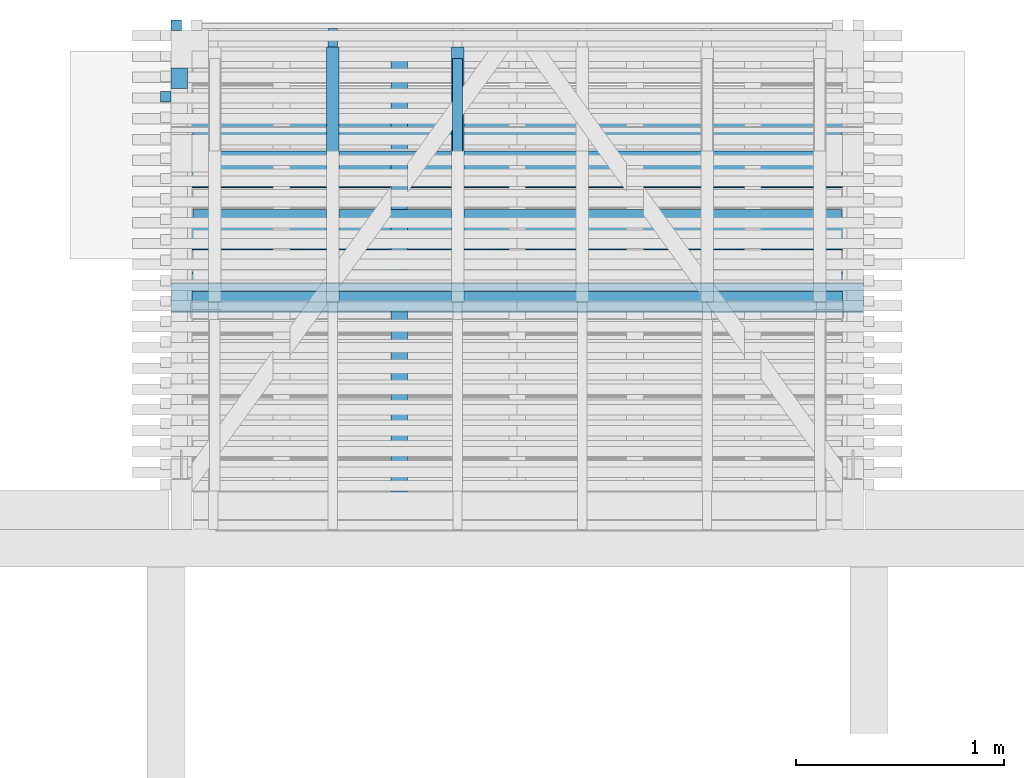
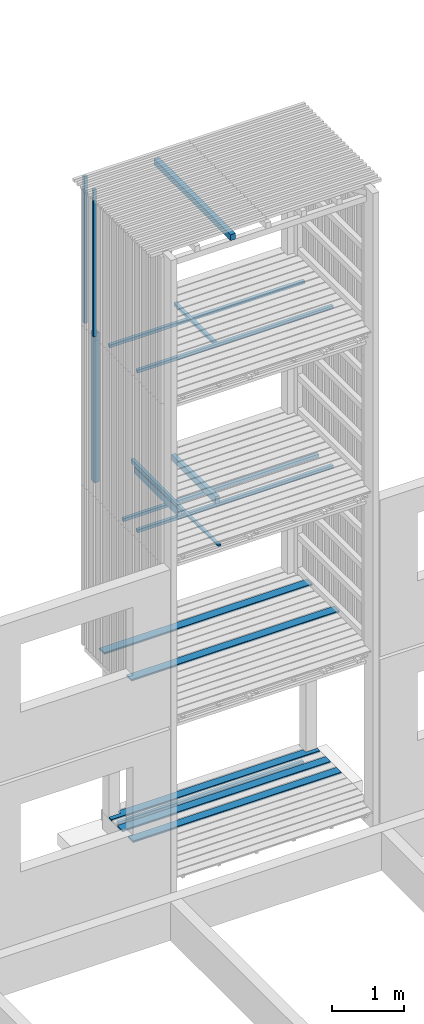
# One storey, part 44 of 182: 18 beams.
"""IFC2X3 building model written with IfcOpenShell, lengths in metres."""

from ifc_helpers import new_model, si_unit, frame, origin, place, context, project, spatial, faceted_brep, element, save


model = new_model("IFC2X3")

# Units and contexts
model_context = context("Model", 3, precision=1e-06, world=origin())
ifc_project = project(units=[si_unit("LENGTHUNIT", "METRE"), si_unit("PLANEANGLEUNIT", "RADIAN")], contexts=[model_context])

# Site, building, storey
site = spatial("IfcSite", under=ifc_project, CompositionType="ELEMENT")
building = spatial("IfcBuilding", under=site, CompositionType="ELEMENT")
storey = spatial("IfcBuildingStorey", under=building, Name="vs", CompositionType="ELEMENT", Elevation=-0.85)

# Beams
placement = place(None, origin())
beam_1_placement = place(placement, frame((14.42253064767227, 10.650077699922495, 10.404999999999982), z_axis=(0.0, 0.0, 1.0), x_axis=(0.0, 1.0, 0.0)))
element("IfcBeam", 1, at=beam_1_placement, inside=storey, Name="Support bardage", context=model_context, shape_type="Brep", body=[
    faceted_brep([(2.120000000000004, -0.040000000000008, 0.050000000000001), (2.120000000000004, 0.03999999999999, 0.050000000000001), (3e-15, 0.03999999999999, 0.050000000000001), (3e-15, -0.040000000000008, 0.050000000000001), (3e-15, 0.03999999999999, 0.050000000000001), (2.120000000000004, 0.03999999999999, 0.050000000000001), (2.120000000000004, 0.03999999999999, -0.050000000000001), (3e-15, 0.03999999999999, -0.050000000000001), (2.120000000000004, 0.03999999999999, 0.050000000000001), (2.120000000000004, -0.040000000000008, 0.050000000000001), (2.120000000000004, -0.040000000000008, -0.050000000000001), (2.120000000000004, 0.03999999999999, -0.050000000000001), (2.120000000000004, -0.040000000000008, -0.050000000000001), (2.120000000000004, -0.040000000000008, 0.050000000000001), (3e-15, -0.040000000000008, 0.050000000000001), (3e-15, -0.040000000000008, -0.050000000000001), (3e-15, 0.03999999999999, -0.050000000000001), (2.120000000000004, 0.03999999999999, -0.050000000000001), (2.120000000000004, -0.040000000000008, -0.050000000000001), (3e-15, -0.040000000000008, -0.050000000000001), (3e-15, 0.03999999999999, 0.050000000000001), (3e-15, 0.03999999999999, -0.050000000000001), (3e-15, -0.040000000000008, -0.050000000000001), (3e-15, -0.040000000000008, 0.050000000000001)], [[[0, 1, 2, 3]], [[4, 5, 6, 7]], [[8, 9, 10, 11]], [[12, 13, 14, 15]], [[16, 17, 18, 19]], [[20, 21, 22, 23]]]),
])
beam_2_placement = place(placement, frame((14.102197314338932, 10.4700776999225, 5.384400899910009), z_axis=(0.0, 0.0, 1.0), x_axis=(0.0, 1.0, 0.0)))
element("IfcBeam", 2, at=beam_2_placement, inside=storey, Name="Calage", context=model_context, shape_type="Brep", body=[
    faceted_brep([(2.41000000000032, -0.022500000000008, -0.035599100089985), (0.0, -0.022500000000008, 0.012600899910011), (0.0, 0.022499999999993, 0.012600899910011), (2.41000000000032, 0.022499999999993, -0.035599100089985), (0.0, 0.022499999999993, 0.035599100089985), (0.0, 0.022499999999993, 0.012600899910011), (0.0, -0.022500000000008, 0.012600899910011), (0.0, -0.022500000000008, 0.035599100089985), (2.41000000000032, 0.022499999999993, -0.035599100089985), (0.0, 0.022499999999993, 0.012600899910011), (0.0, 0.022499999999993, 0.035599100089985), (2.41000000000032, 0.022499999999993, 0.035599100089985), (2.41000000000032, -0.022500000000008, 0.035599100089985), (0.0, -0.022500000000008, 0.035599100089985), (0.0, -0.022500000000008, 0.012600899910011), (2.41000000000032, -0.022500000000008, -0.035599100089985), (2.41000000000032, 0.022499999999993, 0.035599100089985), (0.0, 0.022499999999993, 0.035599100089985), (0.0, -0.022500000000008, 0.035599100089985), (2.41000000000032, -0.022500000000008, 0.035599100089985), (2.41000000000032, 0.022499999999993, -0.035599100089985), (2.41000000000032, 0.022499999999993, 0.035599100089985), (2.41000000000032, -0.022500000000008, 0.035599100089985), (2.41000000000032, -0.022500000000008, -0.035599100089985)], [[[0, 1, 2, 3]], [[4, 5, 6, 7]], [[8, 9, 10, 11]], [[12, 13, 14, 15]], [[16, 17, 18, 19]], [[20, 21, 22, 23]]]),
])
beam_3_placement = place(placement, frame((14.70219731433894, 12.735077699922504, 7.91739999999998), z_axis=(0.0, 0.0, 1.0), x_axis=(0.0, -1.0, 0.0)))
element("IfcBeam", 3, at=beam_3_placement, inside=storey, Name="Calage", context=model_context, shape_type="Brep", body=[
    faceted_brep([(1.115000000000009, 0.024999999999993, 0.024999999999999), (1.115000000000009, -0.025000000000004, 0.024999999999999), (1.115000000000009, -0.025000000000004, -0.025), (1.115000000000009, 0.024999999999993, -0.025), (0.0, -0.025000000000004, -0.025), (0.0, -0.025000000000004, 0.024999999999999), (0.0, 0.024999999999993, 0.024999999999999), (0.0, 0.024999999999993, -0.025), (1.115000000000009, -0.025000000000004, 0.024999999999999), (1.115000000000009, 0.024999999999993, 0.024999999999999), (0.0, 0.024999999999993, 0.024999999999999), (0.0, -0.025000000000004, 0.024999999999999), (1.115000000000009, -0.025000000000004, -0.025), (1.115000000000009, -0.025000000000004, 0.024999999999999), (0.0, -0.025000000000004, 0.024999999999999), (0.0, -0.025000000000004, -0.025), (1.115000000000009, 0.024999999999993, -0.025), (1.115000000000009, -0.025000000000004, -0.025), (0.0, -0.025000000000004, -0.025), (0.0, 0.024999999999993, -0.025), (0.0, 0.024999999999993, 0.024999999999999), (1.115000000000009, 0.024999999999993, 0.024999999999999), (1.115000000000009, 0.024999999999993, -0.025), (0.0, 0.024999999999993, -0.025)], [[[0, 1, 2, 3]], [[4, 5, 6, 7]], [[8, 9, 10, 11]], [[12, 13, 14, 15]], [[16, 17, 18, 19]], [[20, 21, 22, 23]]]),
])
beam_4_placement = place(placement, frame((13.424197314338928, 11.590077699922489, 7.917399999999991), z_axis=(0.0, 0.0, 1.0), x_axis=(1.0, 0.0, 0.0)))
element("IfcBeam", 4, at=beam_4_placement, inside=storey, Name="Ligneul", context=model_context, shape_type="Brep", body=[
    faceted_brep([(4e-15, -0.024999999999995, 0.024999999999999), (4e-15, -0.024999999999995, -0.025000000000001), (3.129999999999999, -0.024999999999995, -0.025000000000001), (3.129999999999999, -0.024999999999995, 0.024999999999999), (4e-15, 0.025000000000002, 0.024999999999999), (4e-15, -0.024999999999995, 0.024999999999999), (3.129999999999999, -0.024999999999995, 0.024999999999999), (3.129999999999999, 0.025000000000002, 0.024999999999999), (4e-15, -0.024999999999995, 0.024999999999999), (4e-15, 0.025000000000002, 0.024999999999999), (4e-15, 0.025000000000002, -0.025000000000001), (4e-15, -0.024999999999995, -0.025000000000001), (4e-15, 0.025000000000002, -0.025000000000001), (4e-15, 0.025000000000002, 0.024999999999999), (3.129999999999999, 0.025000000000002, 0.024999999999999), (3.129999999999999, 0.025000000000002, -0.025000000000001), (3.129999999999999, -0.024999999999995, -0.025000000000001), (4e-15, -0.024999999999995, -0.025000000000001), (4e-15, 0.025000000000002, -0.025000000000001), (3.129999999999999, 0.025000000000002, -0.025000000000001), (3.129999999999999, -0.024999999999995, 0.024999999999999), (3.129999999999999, -0.024999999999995, -0.025000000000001), (3.129999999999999, 0.025000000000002, -0.025000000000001), (3.129999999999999, 0.025000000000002, 0.024999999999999)], [[[0, 1, 2, 3]], [[4, 5, 6, 7]], [[8, 9, 10, 11]], [[12, 13, 14, 15]], [[16, 17, 18, 19]], [[20, 21, 22, 23]]]),
])
beam_5_placement = place(placement, frame((13.504197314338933, 12.265077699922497, -0.164999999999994), z_axis=(0.0, 0.0, 1.0), x_axis=(1.0, 0.0, 0.0)))
element("IfcBeam", 5, at=beam_5_placement, inside=storey, Name="Ligneul", context=model_context, shape_type="Brep", body=[
    faceted_brep([(2e-15, -0.024999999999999, 0.025), (2e-15, -0.024999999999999, -0.025), (2.970000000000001, -0.024999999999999, -0.025), (2.970000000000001, -0.024999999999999, 0.025), (2e-15, 0.024999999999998, 0.025), (2e-15, -0.024999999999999, 0.025), (2.970000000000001, -0.024999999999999, 0.025), (2.970000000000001, 0.025000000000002, 0.025), (2e-15, -0.024999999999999, 0.025), (2e-15, 0.024999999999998, 0.025), (2e-15, 0.024999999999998, -0.025), (2e-15, -0.024999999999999, -0.025), (2e-15, 0.024999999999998, -0.025), (2e-15, 0.024999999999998, 0.025), (2.970000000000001, 0.025000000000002, 0.025), (2.970000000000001, 0.025000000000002, -0.025), (2.970000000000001, -0.024999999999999, -0.025), (2e-15, -0.024999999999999, -0.025), (2e-15, 0.024999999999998, -0.025), (2.970000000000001, 0.025000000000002, -0.025), (2.970000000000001, -0.024999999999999, 0.025), (2.970000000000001, -0.024999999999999, -0.025), (2.970000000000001, 0.025000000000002, -0.025), (2.970000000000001, 0.025000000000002, 0.025)], [[[0, 1, 2, 3]], [[4, 5, 6, 7]], [[8, 9, 10, 11]], [[12, 13, 14, 15]], [[16, 17, 18, 19]], [[20, 21, 22, 23]]]),
])
beam_6_placement = place(placement, frame((14.102197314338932, 11.565077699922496, 5.304249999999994), z_axis=(0.0, 0.0, 1.0), x_axis=(0.0, 1.0, 0.0)))
element("IfcBeam", 6, at=beam_6_placement, inside=storey, Name="Solive", context=model_context, shape_type="Brep", body=[
    faceted_brep([(0.0, -0.030000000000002, -0.061849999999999), (1.225000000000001, -0.030000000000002, -0.061849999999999), (1.225000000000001, -0.030000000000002, 0.03735), (0.0, -0.030000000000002, 0.06185), (0.0, 0.030000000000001, 0.061850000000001), (0.0, 0.030000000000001, -0.061849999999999), (0.0, -0.030000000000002, -0.061849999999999), (0.0, -0.030000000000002, 0.06185), (0.0, -0.030000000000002, -0.061849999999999), (0.0, 0.030000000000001, -0.061849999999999), (1.225000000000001, 0.030000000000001, -0.061849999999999), (1.225000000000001, -0.030000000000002, -0.061849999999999), (1.225000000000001, 0.030000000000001, -0.061849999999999), (0.0, 0.030000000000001, -0.061849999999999), (0.0, 0.030000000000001, 0.061850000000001), (1.225000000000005, 0.030000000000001, 0.03735), (1.225000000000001, -0.030000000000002, 0.03735), (1.225000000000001, -0.030000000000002, -0.061849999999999), (1.225000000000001, 0.030000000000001, -0.061849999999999), (1.225000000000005, 0.030000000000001, 0.03735), (0.0, -0.030000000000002, 0.06185), (1.225000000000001, -0.030000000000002, 0.03735), (1.225000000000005, 0.030000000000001, 0.03735), (0.0, 0.030000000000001, 0.061850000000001)], [[[0, 1, 2, 3]], [[4, 5, 6, 7]], [[8, 9, 10, 11]], [[12, 13, 14, 15]], [[16, 17, 18, 19]], [[20, 21, 22, 23]]]),
])
beam_7_placement = place(placement, frame((16.549197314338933, 12.371744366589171, 7.86739999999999), z_axis=(0.0, 0.0, 1.0), x_axis=(-1.0, 0.0, 0.0)))
element("IfcBeam", 7, at=beam_7_placement, inside=storey, Name="Bardage", context=model_context, shape_type="Brep", body=[
    faceted_brep([(-3e-15, -0.024999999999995, 0.025000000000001), (-3e-15, 0.025000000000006, 0.025000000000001), (-3e-15, 0.025000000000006, -0.024999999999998), (-3e-15, -0.024999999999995, -0.024999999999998), (3.119999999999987, 0.025000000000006, 0.025000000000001), (3.120000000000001, -0.024999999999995, 0.025000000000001), (3.120000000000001, -0.024999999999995, -0.024999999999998), (3.119999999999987, 0.025000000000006, -0.024999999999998), (3.120000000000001, -0.024999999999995, 0.025000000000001), (3.119999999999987, 0.025000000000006, 0.025000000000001), (-3e-15, 0.025000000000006, 0.025000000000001), (-3e-15, -0.024999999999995, 0.025000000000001), (-3e-15, 0.025000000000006, 0.025000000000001), (3.119999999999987, 0.025000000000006, 0.025000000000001), (3.119999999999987, 0.025000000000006, -0.024999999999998), (-3e-15, 0.025000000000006, -0.024999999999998), (-3e-15, -0.024999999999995, -0.024999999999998), (-3e-15, 0.025000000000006, -0.024999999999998), (3.119999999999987, 0.025000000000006, -0.024999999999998), (3.120000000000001, -0.024999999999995, -0.024999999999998), (3.120000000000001, -0.024999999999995, -0.024999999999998), (3.120000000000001, -0.024999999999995, 0.025000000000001), (-3e-15, -0.024999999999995, 0.025000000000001), (-3e-15, -0.024999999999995, -0.024999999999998)], [[[0, 1, 2, 3]], [[4, 5, 6, 7]], [[8, 9, 10, 11]], [[12, 13, 14, 15]], [[16, 17, 18, 19]], [[20, 21, 22, 23]]]),
])
beam_8_placement = place(placement, frame((14.702197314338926, 11.565077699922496, 5.304249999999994), z_axis=(0.0, 0.0, 1.0), x_axis=(1.2e-14, 1.0, 0.0)))
element("IfcBeam", 8, at=beam_8_placement, inside=storey, Name="Solive", context=model_context, shape_type="Brep", body=[
    faceted_brep([(0.0, -0.030000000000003, -0.061849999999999), (1.225000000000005, -0.029999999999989, -0.061849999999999), (1.225000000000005, -0.029999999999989, 0.03735), (0.0, -0.030000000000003, 0.06185), (-1e-15, 0.029999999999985, -0.061849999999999), (1.225000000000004, 0.029999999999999, -0.061849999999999), (1.225000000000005, -0.029999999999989, -0.061849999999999), (0.0, -0.030000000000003, -0.061849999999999), (-1e-15, 0.029999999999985, 0.061850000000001), (-1e-15, 0.029999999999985, -0.061849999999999), (0.0, -0.030000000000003, -0.061849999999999), (0.0, -0.030000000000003, 0.06185), (1.225000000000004, 0.029999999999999, -0.061849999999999), (-1e-15, 0.029999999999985, -0.061849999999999), (-1e-15, 0.029999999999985, 0.061850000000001), (1.225000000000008, 0.029999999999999, 0.03735), (1.225000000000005, -0.029999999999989, 0.03735), (1.225000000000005, -0.029999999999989, -0.061849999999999), (1.225000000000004, 0.029999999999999, -0.061849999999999), (1.225000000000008, 0.029999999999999, 0.03735), (0.0, -0.030000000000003, 0.06185), (1.225000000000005, -0.029999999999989, 0.03735), (1.225000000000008, 0.029999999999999, 0.03735), (-1e-15, 0.029999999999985, 0.061850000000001)], [[[0, 1, 2, 3]], [[4, 5, 6, 7]], [[8, 9, 10, 11]], [[12, 13, 14, 15]], [[16, 17, 18, 19]], [[20, 21, 22, 23]]]),
])
beam_9_placement = place(placement, frame((16.654197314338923, 12.184577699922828, 0.033500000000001), z_axis=(0.0, 0.0, 1.0), x_axis=(-1.0, 0.0, 0.0)))
element("IfcBeam", 9, at=beam_9_placement, inside=storey, Name="Caillebotis", context=model_context, shape_type="Brep", body=[
    faceted_brep([(0.184999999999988, -0.000499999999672, -0.0135), (0.184999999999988, -0.072499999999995, -0.0135), (0.184999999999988, -0.072499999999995, 0.008500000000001), (0.184999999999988, -0.067499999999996, 0.0135), (0.184999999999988, -0.000499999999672, 0.0135), (3.329999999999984, -0.000499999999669, 0.0135), (3.329999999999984, -0.000499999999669, -0.013500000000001), (3.329999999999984, 0.072500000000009, -0.013500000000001), (3.329999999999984, 0.072500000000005, 0.0085), (3.329999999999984, 0.067500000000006, 0.0135), (3.144999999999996, -0.072499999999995, 0.008500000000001), (3.144999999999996, -0.072499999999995, -0.013500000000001), (3.144999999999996, -0.000499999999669, -0.013500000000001), (3.144999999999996, -0.000499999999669, 0.0135), (3.144999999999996, -0.067499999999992, 0.0135), (3.144999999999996, -0.000499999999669, 0.0135), (3.144999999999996, -0.000499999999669, -0.013500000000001), (3.329999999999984, -0.000499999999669, -0.013500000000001), (3.329999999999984, -0.000499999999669, 0.0135), (0.184999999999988, -0.067499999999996, 0.0135), (0.184999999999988, -0.072499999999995, 0.008500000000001), (3.144999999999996, -0.072499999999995, 0.008500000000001), (3.144999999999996, -0.067499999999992, 0.0135), (0.184999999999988, -0.072499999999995, 0.008500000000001), (0.184999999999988, -0.072499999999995, -0.0135), (3.144999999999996, -0.072499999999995, -0.013500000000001), (3.144999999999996, -0.072499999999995, 0.008500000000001), (0.0, 0.072500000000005, -0.0135), (0.0, -0.000499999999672, -0.0135), (0.0, -0.000499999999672, 0.0135), (0.0, 0.067500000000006, 0.0135), (0.0, 0.072500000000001, 0.0085), (0.184999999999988, -0.000499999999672, 0.0135), (0.184999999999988, -0.067499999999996, 0.0135), (3.144999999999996, -0.067499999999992, 0.0135), (3.144999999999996, -0.000499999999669, 0.0135), (3.329999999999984, -0.000499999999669, 0.0135), (3.329999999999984, 0.067500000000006, 0.0135), (0.0, 0.067500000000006, 0.0135), (0.0, -0.000499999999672, 0.0135), (0.184999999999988, -0.000499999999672, -0.0135), (0.184999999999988, -0.000499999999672, 0.0135), (0.0, -0.000499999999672, 0.0135), (0.0, -0.000499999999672, -0.0135), (3.329999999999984, 0.072500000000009, -0.013500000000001), (3.329999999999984, -0.000499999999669, -0.013500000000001), (3.144999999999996, -0.000499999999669, -0.013500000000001), (3.144999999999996, -0.072499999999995, -0.013500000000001), (0.184999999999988, -0.072499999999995, -0.0135), (0.184999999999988, -0.000499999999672, -0.0135), (0.0, -0.000499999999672, -0.0135), (0.0, 0.072500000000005, -0.0135), (3.329999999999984, 0.072500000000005, 0.0085), (3.329999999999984, 0.072500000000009, -0.013500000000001), (0.0, 0.072500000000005, -0.0135), (0.0, 0.072500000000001, 0.0085), (0.0, 0.067500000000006, 0.0135), (3.329999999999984, 0.067500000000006, 0.0135), (3.329999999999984, 0.072500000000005, 0.0085), (0.0, 0.072500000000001, 0.0085)], [[[0, 1, 2, 3, 4]], [[5, 6, 7, 8, 9]], [[10, 11, 12, 13, 14]], [[15, 16, 17, 18]], [[19, 20, 21, 22]], [[23, 24, 25, 26]], [[27, 28, 29, 30, 31]], [[32, 33, 34, 35, 36, 37, 38, 39]], [[40, 41, 42, 43]], [[44, 45, 46, 47, 48, 49, 50, 51]], [[52, 53, 54, 55]], [[56, 57, 58, 59]]]),
])
beam_10_placement = place(placement, frame((16.654197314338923, 11.584577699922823, 0.033500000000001), z_axis=(0.0, 0.0, 1.0), x_axis=(-1.0, 0.0, 0.0)))
element("IfcBeam", 10, at=beam_10_placement, inside=storey, Name="Caillebotis", context=model_context, shape_type="Brep", body=[
    faceted_brep([(3.329999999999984, -0.067500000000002, 0.0135), (3.329999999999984, -0.072499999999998, 0.008500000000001), (3.329999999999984, -0.072499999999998, -0.013500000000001), (3.329999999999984, 0.072500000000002, -0.013500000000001), (3.329999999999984, 0.072499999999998, 0.0085), (3.329999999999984, 0.067500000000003, 0.0135), (0.0, 0.067500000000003, 0.0135), (0.0, 0.072499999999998, 0.0085), (0.0, 0.072499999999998, -0.013500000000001), (0.0, -0.072500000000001, -0.013500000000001), (0.0, -0.072500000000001, 0.008500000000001), (0.0, -0.067500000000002, 0.0135), (3.329999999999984, -0.072499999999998, -0.013500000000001), (3.329999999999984, -0.072499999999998, 0.008500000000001), (0.0, -0.072500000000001, 0.008500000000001), (0.0, -0.072500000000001, -0.013500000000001), (3.329999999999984, 0.072500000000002, -0.013500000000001), (3.329999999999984, -0.072499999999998, -0.013500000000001), (0.0, -0.072500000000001, -0.013500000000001), (0.0, 0.072499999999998, -0.013500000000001), (3.329999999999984, 0.072499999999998, 0.0085), (3.329999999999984, 0.072500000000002, -0.013500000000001), (0.0, 0.072499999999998, -0.013500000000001), (0.0, 0.072499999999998, 0.0085), (3.329999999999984, 0.067500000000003, 0.0135), (3.329999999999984, 0.072499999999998, 0.0085), (0.0, 0.072499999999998, 0.0085), (0.0, 0.067500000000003, 0.0135), (3.329999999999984, -0.067500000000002, 0.0135), (3.329999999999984, 0.067500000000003, 0.0135), (0.0, 0.067500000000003, 0.0135), (0.0, -0.067500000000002, 0.0135), (0.0, -0.072500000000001, 0.008500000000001), (3.329999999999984, -0.072499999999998, 0.008500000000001), (3.329999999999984, -0.067500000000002, 0.0135), (0.0, -0.067500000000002, 0.0135)], [[[0, 1, 2, 3, 4, 5]], [[6, 7, 8, 9, 10, 11]], [[12, 13, 14, 15]], [[16, 17, 18, 19]], [[20, 21, 22, 23]], [[24, 25, 26, 27]], [[28, 29, 30, 31]], [[32, 33, 34, 35]]]),
])
beam_11_placement = place(placement, frame((16.654197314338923, 11.634577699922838, 2.733499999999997), z_axis=(0.0, 0.0, 1.0), x_axis=(-1.0, -1e-14, 0.0)))
element("IfcBeam", 11, at=beam_11_placement, inside=storey, Name="Caillebotis", context=model_context, shape_type="Brep", body=[
    faceted_brep([(3.329999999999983, -0.072500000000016, -0.0135), (3.329999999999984, 0.072499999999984, -0.0135), (3.329999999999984, 0.072499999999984, 0.0085), (3.329999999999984, 0.067499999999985, 0.0135), (3.329999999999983, -0.067500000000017, 0.0135), (3.329999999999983, -0.072500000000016, 0.008500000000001), (-1.5e-14, -0.072499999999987, 0.008500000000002), (-1.5e-14, -0.067499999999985, 0.0135), (-1.4e-14, 0.067500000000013, 0.0135), (-1.4e-14, 0.072500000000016, 0.0085), (-1.4e-14, 0.072500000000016, -0.0135), (-1.5e-14, -0.072499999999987, -0.0135), (3.329999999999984, 0.072499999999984, 0.0085), (3.329999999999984, 0.072499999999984, -0.0135), (-1.4e-14, 0.072500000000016, -0.0135), (-1.4e-14, 0.072500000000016, 0.0085), (3.329999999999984, 0.067499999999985, 0.0135), (3.329999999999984, 0.072499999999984, 0.0085), (-1.4e-14, 0.072500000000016, 0.0085), (-1.4e-14, 0.067500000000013, 0.0135), (3.329999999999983, -0.067500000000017, 0.0135), (3.329999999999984, 0.067499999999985, 0.0135), (-1.4e-14, 0.067500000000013, 0.0135), (-1.5e-14, -0.067499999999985, 0.0135), (3.329999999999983, -0.072500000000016, 0.008500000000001), (3.329999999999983, -0.067500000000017, 0.0135), (-1.5e-14, -0.067499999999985, 0.0135), (-1.5e-14, -0.072499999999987, 0.008500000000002), (3.329999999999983, -0.072500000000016, -0.0135), (3.329999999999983, -0.072500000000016, 0.008500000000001), (-1.5e-14, -0.072499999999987, 0.008500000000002), (-1.5e-14, -0.072499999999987, -0.0135), (-1.4e-14, 0.072500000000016, -0.0135), (3.329999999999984, 0.072499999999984, -0.0135), (3.329999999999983, -0.072500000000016, -0.0135), (-1.5e-14, -0.072499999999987, -0.0135)], [[[0, 1, 2, 3, 4, 5]], [[6, 7, 8, 9, 10, 11]], [[12, 13, 14, 15]], [[16, 17, 18, 19]], [[20, 21, 22, 23]], [[24, 25, 26, 27]], [[28, 29, 30, 31]], [[32, 33, 34, 35]]]),
])
beam_12_placement = place(placement, frame((16.654197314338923, 12.384577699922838, 2.733499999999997), z_axis=(0.0, 0.0, 1.0), x_axis=(-1.0, -1e-14, 0.0)))
element("IfcBeam", 12, at=beam_12_placement, inside=storey, Name="Caillebotis", context=model_context, shape_type="Brep", body=[
    faceted_brep([(3.329999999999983, -0.072500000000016, -0.0135), (3.329999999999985, 0.072499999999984, -0.0135), (3.329999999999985, 0.072499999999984, 0.0085), (3.329999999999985, 0.067499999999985, 0.0135), (3.329999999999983, -0.067500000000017, 0.0135), (3.329999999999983, -0.072500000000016, 0.008500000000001), (-1.5e-14, -0.072499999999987, 0.008500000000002), (-1.5e-14, -0.067499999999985, 0.0135), (-1.4e-14, 0.067500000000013, 0.0135), (-1.4e-14, 0.072500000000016, 0.0085), (-1.4e-14, 0.072500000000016, -0.0135), (-1.5e-14, -0.072499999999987, -0.0135), (3.329999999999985, 0.072499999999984, 0.0085), (3.329999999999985, 0.072499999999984, -0.0135), (-1.4e-14, 0.072500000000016, -0.0135), (-1.4e-14, 0.072500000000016, 0.0085), (3.329999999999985, 0.067499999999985, 0.0135), (3.329999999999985, 0.072499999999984, 0.0085), (-1.4e-14, 0.072500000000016, 0.0085), (-1.4e-14, 0.067500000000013, 0.0135), (3.329999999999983, -0.067500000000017, 0.0135), (3.329999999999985, 0.067499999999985, 0.0135), (-1.4e-14, 0.067500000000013, 0.0135), (-1.5e-14, -0.067499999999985, 0.0135), (3.329999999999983, -0.072500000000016, 0.008500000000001), (3.329999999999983, -0.067500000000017, 0.0135), (-1.5e-14, -0.067499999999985, 0.0135), (-1.5e-14, -0.072499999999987, 0.008500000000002), (3.329999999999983, -0.072500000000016, -0.0135), (3.329999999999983, -0.072500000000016, 0.008500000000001), (-1.5e-14, -0.072499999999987, 0.008500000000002), (-1.5e-14, -0.072499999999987, -0.0135), (-1.4e-14, 0.072500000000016, -0.0135), (3.329999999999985, 0.072499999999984, -0.0135), (3.329999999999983, -0.072500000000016, -0.0135), (-1.5e-14, -0.072499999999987, -0.0135)], [[[0, 1, 2, 3, 4, 5]], [[6, 7, 8, 9, 10, 11]], [[12, 13, 14, 15]], [[16, 17, 18, 19]], [[20, 21, 22, 23]], [[24, 25, 26, 27]], [[28, 29, 30, 31]], [[32, 33, 34, 35]]]),
])
beam_13_placement = place(placement, frame((16.549197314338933, 11.983411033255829, 5.167399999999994), z_axis=(0.0, 0.0, 1.0), x_axis=(-1.0, 0.0, 0.0)))
element("IfcBeam", 13, at=beam_13_placement, inside=storey, Name="Bardage", context=model_context, shape_type="Brep", body=[
    faceted_brep([(3.120000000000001, 0.024999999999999, -0.024999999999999), (3.120000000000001, 0.024999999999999, 0.025), (3.120000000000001, -0.025000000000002, 0.025), (3.120000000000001, -0.025000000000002, -0.024999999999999), (-3e-15, -0.025000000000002, -0.024999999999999), (-3e-15, -0.025000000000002, 0.025), (-3e-15, 0.024999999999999, 0.025), (-3e-15, 0.024999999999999, -0.024999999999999), (-3e-15, 0.024999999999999, -0.024999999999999), (-3e-15, 0.024999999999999, 0.025), (3.120000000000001, 0.024999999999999, 0.025), (3.120000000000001, 0.024999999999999, -0.024999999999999), (-3e-15, 0.024999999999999, 0.025), (-3e-15, -0.025000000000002, 0.025), (3.120000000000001, -0.025000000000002, 0.025), (3.120000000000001, 0.024999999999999, 0.025), (-3e-15, -0.025000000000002, 0.025), (-3e-15, -0.025000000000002, -0.024999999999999), (3.120000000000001, -0.025000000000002, -0.024999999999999), (3.120000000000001, -0.025000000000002, 0.025), (-3e-15, -0.025000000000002, -0.024999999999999), (-3e-15, 0.024999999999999, -0.024999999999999), (3.120000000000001, 0.024999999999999, -0.024999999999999), (3.120000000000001, -0.025000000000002, -0.024999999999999)], [[[0, 1, 2, 3]], [[4, 5, 6, 7]], [[8, 9, 10, 11]], [[12, 13, 14, 15]], [[16, 17, 18, 19]], [[20, 21, 22, 23]]]),
])
beam_14_placement = place(placement, frame((13.424197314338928, 11.590077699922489, 5.217399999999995), z_axis=(0.0, 0.0, 1.0), x_axis=(1.0, 0.0, 0.0)))
element("IfcBeam", 14, at=beam_14_placement, inside=storey, Name="Ligneul", context=model_context, shape_type="Brep", body=[
    faceted_brep([(4e-15, -0.024999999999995, 0.024999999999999), (4e-15, -0.024999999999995, -0.025), (3.129999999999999, -0.024999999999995, -0.025), (3.129999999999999, -0.024999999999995, 0.024999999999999), (4e-15, 0.025000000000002, 0.024999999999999), (4e-15, -0.024999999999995, 0.024999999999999), (3.129999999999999, -0.024999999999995, 0.024999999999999), (3.129999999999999, 0.025000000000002, 0.024999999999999), (4e-15, -0.024999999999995, 0.024999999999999), (4e-15, 0.025000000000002, 0.024999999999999), (4e-15, 0.025000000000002, -0.025), (4e-15, -0.024999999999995, -0.025), (4e-15, 0.025000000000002, -0.025), (4e-15, 0.025000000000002, 0.024999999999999), (3.129999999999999, 0.025000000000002, 0.024999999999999), (3.129999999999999, 0.025000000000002, -0.025), (3.129999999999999, -0.024999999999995, -0.025), (4e-15, -0.024999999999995, -0.025), (4e-15, 0.025000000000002, -0.025), (3.129999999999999, 0.025000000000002, -0.025), (3.129999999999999, -0.024999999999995, 0.024999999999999), (3.129999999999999, -0.024999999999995, -0.025), (3.129999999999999, 0.025000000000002, -0.025), (3.129999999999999, 0.025000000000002, 0.024999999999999)], [[[0, 1, 2, 3]], [[4, 5, 6, 7]], [[8, 9, 10, 11]], [[12, 13, 14, 15]], [[16, 17, 18, 19]], [[20, 21, 22, 23]]]),
])
beam_15_placement = place(placement, frame((16.654197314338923, 11.884577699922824, 0.033500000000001), z_axis=(0.0, 0.0, 1.0), x_axis=(-1.0, -1e-15, 0.0)))
element("IfcBeam", 15, at=beam_15_placement, inside=storey, Name="Caillebotis", context=model_context, shape_type="Brep", body=[
    faceted_brep([(3.329999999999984, -0.067500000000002, 0.0135), (3.329999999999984, -0.072500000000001, 0.008500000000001), (3.329999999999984, -0.072500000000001, -0.013500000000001), (3.329999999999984, 0.072499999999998, -0.013500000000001), (3.329999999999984, 0.072499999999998, 0.0085), (3.329999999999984, 0.067499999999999, 0.0135), (0.0, 0.0675, 0.0135), (0.0, 0.072500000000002, 0.0085), (0.0, 0.072500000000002, -0.013500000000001), (0.0, -0.072500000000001, -0.013500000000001), (0.0, -0.072500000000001, 0.008500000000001), (0.0, -0.067499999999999, 0.0135), (3.329999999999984, -0.072500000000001, -0.013500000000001), (3.329999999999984, -0.072500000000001, 0.008500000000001), (0.0, -0.072500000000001, 0.008500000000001), (0.0, -0.072500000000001, -0.013500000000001), (3.329999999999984, 0.072499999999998, -0.013500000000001), (3.329999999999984, -0.072500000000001, -0.013500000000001), (0.0, -0.072500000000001, -0.013500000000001), (0.0, 0.072500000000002, -0.013500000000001), (3.329999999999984, 0.072499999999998, 0.0085), (3.329999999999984, 0.072499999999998, -0.013500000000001), (0.0, 0.072500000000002, -0.013500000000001), (0.0, 0.072500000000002, 0.0085), (3.329999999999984, 0.067499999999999, 0.0135), (3.329999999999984, 0.072499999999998, 0.0085), (0.0, 0.072500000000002, 0.0085), (0.0, 0.0675, 0.0135), (3.329999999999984, -0.067500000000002, 0.0135), (3.329999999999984, 0.067499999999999, 0.0135), (0.0, 0.0675, 0.0135), (0.0, -0.067499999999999, 0.0135), (0.0, -0.072500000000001, 0.008500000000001), (3.329999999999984, -0.072500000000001, 0.008500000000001), (3.329999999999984, -0.067500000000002, 0.0135), (0.0, -0.067499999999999, 0.0135)], [[[0, 1, 2, 3, 4, 5]], [[6, 7, 8, 9, 10, 11]], [[12, 13, 14, 15]], [[16, 17, 18, 19]], [[20, 21, 22, 23]], [[24, 25, 26, 27]], [[28, 29, 30, 31]], [[32, 33, 34, 35]]]),
])
beam_16_placement = place(placement, frame((13.299197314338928, 12.550532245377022, 7.974999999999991), z_axis=(1.0, 0.0, 0.0), x_axis=(0.0, 0.0, 1.0)))
element("IfcBeam", 16, at=beam_16_placement, inside=storey, Name="Bardage", context=model_context, shape_type="Brep", body=[
    faceted_brep([(0.0, -0.025000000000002, 0.025000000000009), (0.0, 0.025000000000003, 0.025000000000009), (0.0, 0.025000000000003, -0.025000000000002), (0.0, -0.025000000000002, -0.025000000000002), (2.479999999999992, 0.025000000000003, -0.025000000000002), (2.479999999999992, 0.025000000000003, 0.025000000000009), (2.479999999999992, -0.025000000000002, 0.025000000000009), (2.479999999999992, -0.025000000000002, -0.025000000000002), (0.0, 0.025000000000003, 0.025000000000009), (0.0, -0.025000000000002, 0.025000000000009), (2.479999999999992, -0.025000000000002, 0.025000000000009), (2.479999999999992, 0.025000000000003, 0.025000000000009), (0.0, 0.025000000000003, -0.025000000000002), (0.0, 0.025000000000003, 0.025000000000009), (2.479999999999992, 0.025000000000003, 0.025000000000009), (2.479999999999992, 0.025000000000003, -0.025000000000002), (0.0, -0.025000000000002, -0.025000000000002), (0.0, 0.025000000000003, -0.025000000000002), (2.479999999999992, 0.025000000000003, -0.025000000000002), (2.479999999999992, -0.025000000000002, -0.025000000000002), (2.479999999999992, -0.025000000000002, 0.025000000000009), (0.0, -0.025000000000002, 0.025000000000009), (0.0, -0.025000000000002, -0.025000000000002), (2.479999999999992, -0.025000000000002, -0.025000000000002)], [[[0, 1, 2, 3]], [[4, 5, 6, 7]], [[8, 9, 10, 11]], [[12, 13, 14, 15]], [[16, 17, 18, 19]], [[20, 21, 22, 23]]]),
])
beam_17_placement = place(placement, frame((13.364197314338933, 12.640077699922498, 5.446999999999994), z_axis=(0.0, -1.0, 0.0), x_axis=(0.0, 0.0, 1.0)))
element("IfcBeam", 17, at=beam_17_placement, inside=storey, Name="Support bardage", context=model_context, shape_type="Brep", body=[
    faceted_brep([(2.527999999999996, 0.039999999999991, -0.050000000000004), (2.527999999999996, 0.039999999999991, 0.049999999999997), (2.527999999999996, -0.040000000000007, 0.049999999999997), (2.527999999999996, -0.040000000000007, -0.050000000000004), (-1e-15, 0.039999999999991, -0.050000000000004), (2.527999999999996, 0.039999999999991, -0.050000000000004), (2.527999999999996, -0.040000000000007, -0.050000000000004), (-1e-15, -0.040000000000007, -0.050000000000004), (-1e-15, 0.039999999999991, -0.050000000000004), (-1e-15, -0.040000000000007, -0.050000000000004), (-1e-15, -0.040000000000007, 0.049999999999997), (-1e-15, 0.039999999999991, 0.049999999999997), (-1e-15, 0.039999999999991, -0.050000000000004), (-1e-15, 0.039999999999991, 0.049999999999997), (2.527999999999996, 0.039999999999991, 0.049999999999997), (2.527999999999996, 0.039999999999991, -0.050000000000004), (-1e-15, 0.039999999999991, 0.049999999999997), (-1e-15, -0.040000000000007, 0.049999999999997), (2.527999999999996, -0.040000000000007, 0.049999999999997), (2.527999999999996, 0.039999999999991, 0.049999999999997), (-1e-15, -0.040000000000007, 0.049999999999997), (-1e-15, -0.040000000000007, -0.050000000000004), (2.527999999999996, -0.040000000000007, -0.050000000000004), (2.527999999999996, -0.040000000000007, 0.049999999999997)], [[[0, 1, 2, 3]], [[4, 5, 6, 7]], [[8, 9, 10, 11]], [[12, 13, 14, 15]], [[16, 17, 18, 19]], [[20, 21, 22, 23]]]),
])
beam_18_placement = place(placement, frame((13.349197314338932, 12.895077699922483, 7.974999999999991), z_axis=(0.0, -1.0, 0.0), x_axis=(0.0, 0.0, 1.0)))
element("IfcBeam", 18, at=beam_18_placement, inside=storey, Name="Bardage", context=model_context, shape_type="Brep", body=[
    faceted_brep([(2.479999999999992, -0.025000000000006, 0.025000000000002), (2.479999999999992, -0.024999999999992, -0.024999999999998), (2.479999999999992, 0.025000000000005, -0.024999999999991), (2.479999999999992, 0.024999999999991, 0.025000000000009), (0.0, 0.024999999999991, 0.025000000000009), (0.0, -0.025000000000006, 0.025000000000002), (2.479999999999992, -0.025000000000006, 0.025000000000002), (2.479999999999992, 0.024999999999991, 0.025000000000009), (0.0, -0.025000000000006, 0.025000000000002), (0.0, 0.024999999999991, 0.025000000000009), (0.0, 0.025000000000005, -0.024999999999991), (0.0, -0.024999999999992, -0.024999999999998), (0.0, 0.025000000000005, -0.024999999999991), (0.0, 0.024999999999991, 0.025000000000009), (2.479999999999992, 0.024999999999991, 0.025000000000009), (2.479999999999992, 0.025000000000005, -0.024999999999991), (0.0, -0.024999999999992, -0.024999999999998), (0.0, 0.025000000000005, -0.024999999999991), (2.479999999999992, 0.025000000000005, -0.024999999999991), (2.479999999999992, -0.024999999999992, -0.024999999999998), (2.479999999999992, -0.025000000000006, 0.025000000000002), (0.0, -0.025000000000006, 0.025000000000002), (0.0, -0.024999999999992, -0.024999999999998), (2.479999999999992, -0.024999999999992, -0.024999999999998)], [[[0, 1, 2, 3]], [[4, 5, 6, 7]], [[8, 9, 10, 11]], [[12, 13, 14, 15]], [[16, 17, 18, 19]], [[20, 21, 22, 23]]]),
])

save(model, "model.ifc")
